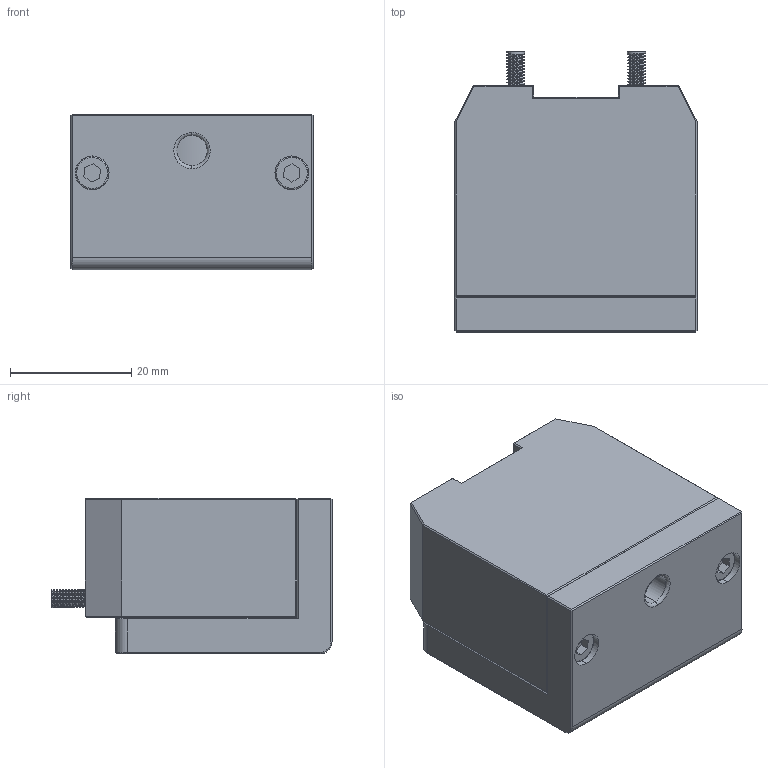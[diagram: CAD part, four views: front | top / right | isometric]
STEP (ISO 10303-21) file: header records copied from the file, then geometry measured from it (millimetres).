
FILE_DESCRIPTION (( 'STEP AP203' ), '1' );
FILE_NAME ('QCHFM-02G-1000.STEP', '2024-10-10T06:04:49', ( '微软用户' ), ( '微软中国' ), 'SwSTEP 2.0', 'SolidWorks 2018', '' );
FILE_SCHEMA (( 'CONFIG_CONTROL_DESIGN' ));
Length unit declared in the file: millimetre
Products named in the file (1): QCHFM-02G-1000
Bounding box: 40 x 46.3 x 25.7 mm (x, y, z)
Volume: 35651.7 mm3; surface area: 10390.2 mm2
Topology: 3 solids, 18 shells, 601 faces, 1474 edges, 926 vertices
Faces by surface type: cylinder 314, plane 186, cone 54, bspline 47
Entity records: 29856 total; most frequent: CARTESIAN_POINT 17097, ORIENTED_EDGE 2932, DIRECTION 2343, EDGE_CURVE 1466, VERTEX_POINT 926, AXIS2_PLACEMENT_3D 829, LINE 685, VECTOR 685
